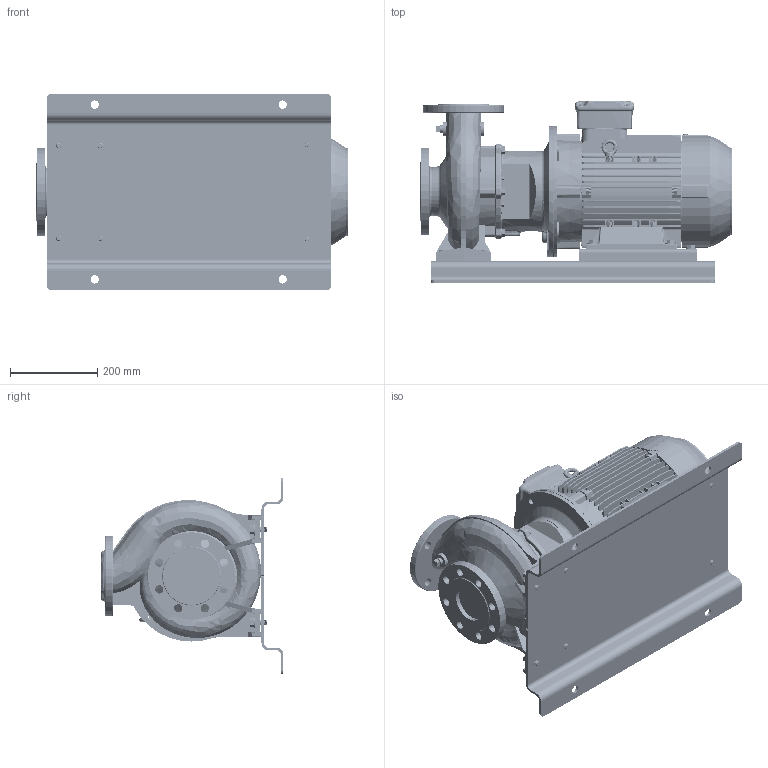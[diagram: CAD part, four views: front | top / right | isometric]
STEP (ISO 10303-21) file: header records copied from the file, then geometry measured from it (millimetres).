
FILE_DESCRIPTION (( 'STEP AP214' ), '1' );
FILE_NAME ('GSD2 65-160_9.2_(132M)_W21_BP.STEP', '2024-07-31T00:05:20', ( '' ), ( '' ), 'SwSTEP 2.0', 'SolidWorks 2019', '' );
FILE_SCHEMA (( 'AUTOMOTIVE_DESIGN' ));
Length unit declared in the file: millimetre
Products named in the file (10): Parametric bolt_SFT-A299B; Parametric Flat Washer_M12; GSD2  65-160_9.2_(132M)_W21_BP; 132M ALIE3_W21T_B35; 65-160-132M_______; 140_178 x 28 - 271472025; Parametric bolt_SFT-A257B; N4S4 GSDA-442 F1-1832913-00; Parametric Flat Washer_M10; Parametric bolt_SFT-A253B
Assembly tree (25 placements, depth 2):
  GSD2  65-160_9.2_(132M)_W21_BP
    65-160-132M_______
    N4S4 GSDA-442 F1-1832913-00
    140_178 x 28 - 271472025  x2
    Parametric bolt_SFT-A253B  x4
    Parametric bolt_SFT-A257B  x2
    Parametric bolt_SFT-A299B  x4
    Parametric Flat Washer_M12  x4
    Parametric Flat Washer_M10  x6
    132M ALIE3_W21T_B35
Bounding box: 714.8 x 418 x 450 mm (x, y, z)
Volume: 31569995.4 mm3; surface area: 2670061.8 mm2
Topology: 28 solids, 28 shells, 4975 faces, 12978 edges, 8383 vertices
Faces by surface type: plane 2894, cylinder 1264, torus 318, bspline 263, cone 204, sphere 32
Entity records: 215851 total; most frequent: CARTESIAN_POINT 67948, ORIENTED_EDGE 23704, DIRECTION 21259, EDGE_CURVE 11852, LINE 7841, VECTOR 7841, VERTEX_POINT 7667, AXIS2_PLACEMENT_3D 6709
